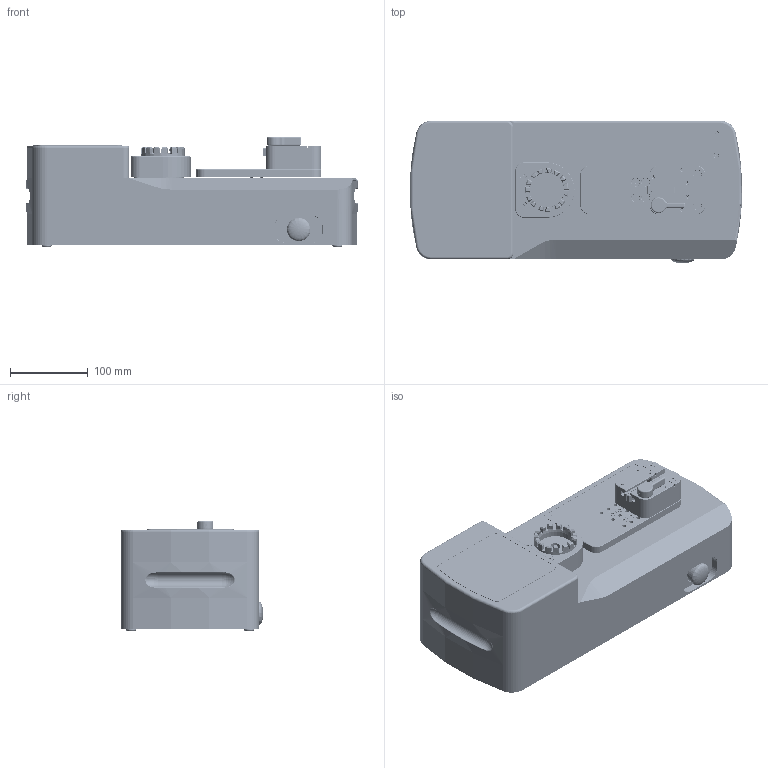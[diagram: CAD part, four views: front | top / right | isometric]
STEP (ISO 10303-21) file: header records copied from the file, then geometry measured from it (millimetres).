
FILE_DESCRIPTION(/* description */ (''),/* implementation_level */ '2;1');
FILE_NAME(/* name */ 'WT-205M.stp',/* time_stamp */ '2025-04-22T11:10:38-04:00',/* author */ ('scosgrove'),/* organization */ (''),/* preprocessor_version */ 'ST-DEVELOPER v20',/* originating_system */ 'AutoCAD Mechanical',/* authorisation */ '');
FILE_SCHEMA (('AUTOMOTIVE_DESIGN { 1 0 10303 214 3 1 1 }'));
Length unit declared in the file: inch
Products named in the file (4): Product; A165E-S-02; 92210A105_18-8 Stainless Steel Hex Drive Flat Head Screw; 91375A143_Alloy Steel Cup-Point Set Screw
Assembly tree (6 placements, depth 2):
  Product
    A165E-S-02
    92210A105_18-8 Stainless Steel Hex Drive Flat Head Screw  x4
    91375A143_Alloy Steel Cup-Point Set Screw
Bounding box: 426.38 x 182.73 x 141.12 mm (x, y, z)
Volume: 3103855.3 mm3; surface area: 839861.3 mm2
Topology: 67 solids, 90 shells, 6175 faces, 16675 edges, 10938 vertices
Faces by surface type: cylinder 2919, plane 2537, cone 456, torus 155, bspline 96, sphere 12
Full cylindrical faces by diameter (mm): 0.61 x15, 0.94 x15, 1.015 x2, 1.016 x15, 1.397 x8, 1.524 x4, 1.6 x1, 1.797 x2, 2.015 x4, 2.02 x16, 2.13 x1, 2.184 x19, 2.367 x14, 2.381 x8, 2.4 x6, 2.413 x10, 2.474 x5, 2.5 x1, 2.845 x41, 3.048 x2, 3.162 x2, 3.175 x2, 3.2 x2, 3.302 x4, 3.328 x1, 3.429 x2, 3.505 x54, 3.795 x68, 3.81 x4, 3.861 x2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
Entity records: 344575 total; most frequent: CARTESIAN_POINT 199904, ORIENTED_EDGE 32802, DIRECTION 26907, EDGE_CURVE 16401, VERTEX_POINT 10780, AXIS2_PLACEMENT_3D 9202, LINE 8503, VECTOR 8503
